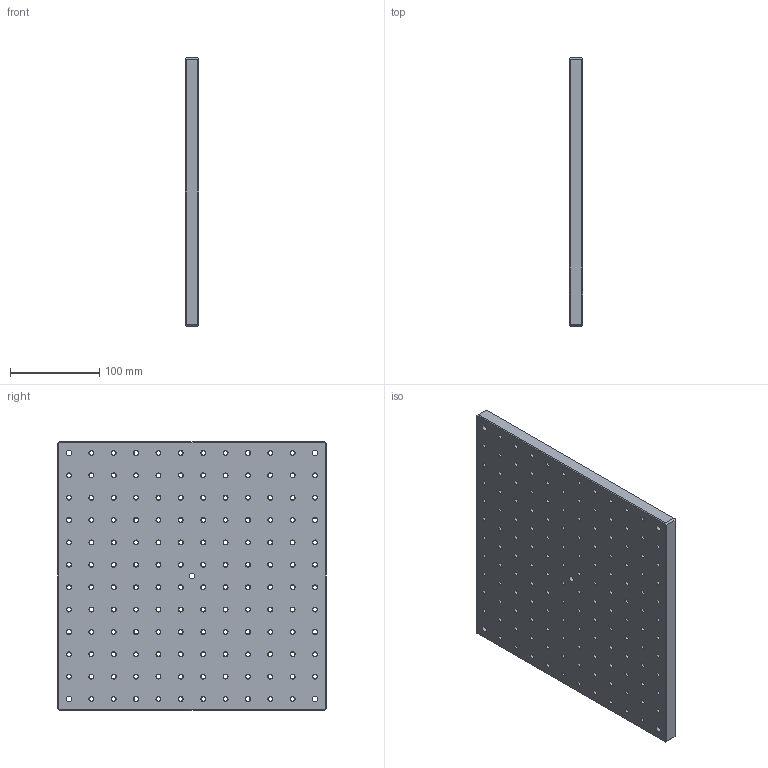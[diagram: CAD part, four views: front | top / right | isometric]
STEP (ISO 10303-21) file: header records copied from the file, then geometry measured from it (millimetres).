
FILE_DESCRIPTION(/* description */ (''),/* implementation_level */ '2;1');
FILE_NAME(/* name */ 'U:\KONSTRUKTORIAI\DOKUMENTACIJA\1\1B-ALE\1B-ALE-30-30-015\step\1B-ALE-30-30-015.stp',/* time_stamp */ '2016-06-15T08:04:33+03:00',/* author */ ('dsgn31'),/* organization */ (''),/* preprocessor_version */ 'ST-DEVELOPER v15.2',/* originating_system */ 'Autodesk Inventor 2014',/* authorisation */ '');
FILE_SCHEMA (('AUTOMOTIVE_DESIGN { 1 0 10303 214 3 1 1 }'));
Length unit declared in the file: millimetre
Products named in the file (1): 1B-ALE-30-30-015.01
Bounding box: 15 x 300 x 300 mm (x, y, z)
Volume: 1303652.2 mm3; surface area: 224678.8 mm2
Topology: 1 solids, 1 shells, 453 faces, 1190 edges, 744 vertices
Faces by surface type: cone 280, cylinder 150, plane 23
Full cylindrical faces by diameter (mm): 4.917 x140, 6.5 x5, 11 x5
Entity records: 11231 total; most frequent: DIRECTION 2108, CARTESIAN_POINT 1678, ORIENTED_EDGE 1240, EDGE_LOOP 1178, AXIS2_PLACEMENT_3D 1034, FACE_BOUND 727, EDGE_CURVE 620, VERTEX_POINT 604
